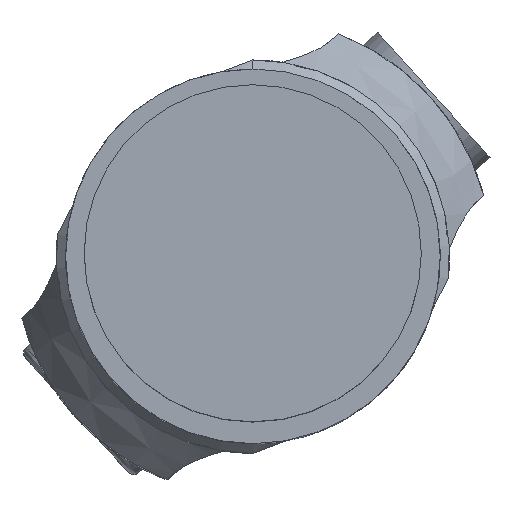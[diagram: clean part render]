
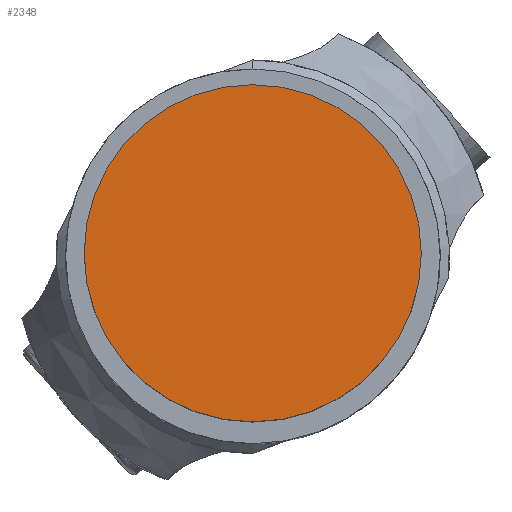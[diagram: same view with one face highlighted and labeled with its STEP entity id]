
A CAD part, top view. The second image highlights one B-rep face of the part: STEP entity #2348.
In plain terms, the highlighted planar face has unit normal (0, 0, 1).
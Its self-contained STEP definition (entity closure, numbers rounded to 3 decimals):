
#9 = DIRECTION ( 'NONE',  ( 0., 0., -1. ) ) ;
#122 = VERTEX_POINT ( 'NONE', #1672 ) ;
#235 = AXIS2_PLACEMENT_3D ( 'NONE', #1741, #9, #938 ) ;
#522 = AXIS2_PLACEMENT_3D ( 'NONE', #745, #1107, #1900 ) ;
#745 = CARTESIAN_POINT ( 'NONE',  ( -0.008, 0.009, -90. ) ) ;
#752 = FACE_OUTER_BOUND ( 'NONE', #1755, .T. ) ;
#773 = DIRECTION ( 'NONE',  ( 0., 0., -1. ) ) ;
#923 = DIRECTION ( 'NONE',  ( 0., 1., 0. ) ) ;
#938 = DIRECTION ( 'NONE',  ( 0., -1., 0. ) ) ;
#960 = ORIENTED_EDGE ( 'NONE', *, *, #2401, .F. ) ;
#1049 = CARTESIAN_POINT ( 'NONE',  ( -0.008, 9.009, -89.999 ) ) ;
#1107 = DIRECTION ( 'NONE',  ( 0., 0., -1. ) ) ;
#1672 = CARTESIAN_POINT ( 'NONE',  ( -0.008, -8.991, -90.001 ) ) ;
#1706 = ORIENTED_EDGE ( 'NONE', *, *, #1926, .F. ) ;
#1741 = CARTESIAN_POINT ( 'NONE',  ( -0.008, 0.009, -90. ) ) ;
#1755 = EDGE_LOOP ( 'NONE', ( #1706, #960 ) ) ;
#1881 = CARTESIAN_POINT ( 'NONE',  ( -0.008, 0.009, -90. ) ) ;
#1892 = CIRCLE ( 'NONE', #522, 9. ) ;
#1900 = DIRECTION ( 'NONE',  ( 0., -1., 0. ) ) ;
#1919 = PLANE ( 'NONE',  #2342 ) ;
#1926 = EDGE_CURVE ( 'NONE', #122, #2204, #1892, .T. ) ;
#2204 = VERTEX_POINT ( 'NONE', #1049 ) ;
#2342 = AXIS2_PLACEMENT_3D ( 'NONE', #1881, #773, #923 ) ;
#2348 = ADVANCED_FACE ( 'NONE', ( #752 ), #1919, .F. ) ;
#2401 = EDGE_CURVE ( 'NONE', #2204, #122, #2510, .T. ) ;
#2510 = CIRCLE ( 'NONE', #235, 9. ) ;
